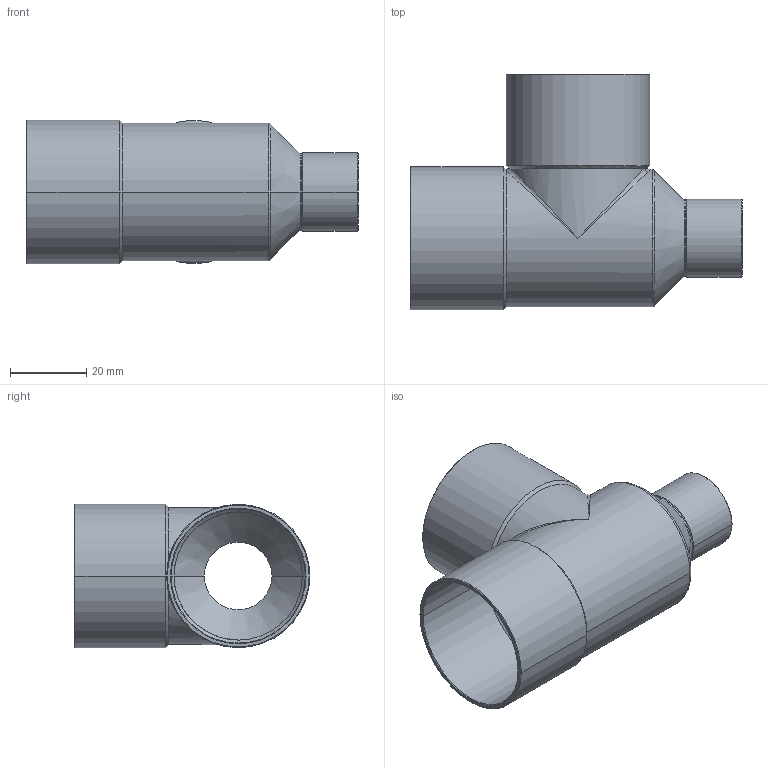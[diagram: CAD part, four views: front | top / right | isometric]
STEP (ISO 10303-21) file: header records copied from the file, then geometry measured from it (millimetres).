
FILE_DESCRIPTION((''),'2;1');
FILE_NAME('G:\Technics\CAD\Bauteile\15130\15130353518.stp','2005-11-03T13:42:59',('boden'),(''),'Autodesk Inventor 8','Autodesk Inventor 8','');
FILE_SCHEMA(('AUTOMOTIVE_DESIGN { 1 0 10303 214 1 1 1 1 }'));
Length unit declared in the file: millimetre
Products named in the file (1): 15130353518
Bounding box: 87 x 61.77 x 37.55 mm (x, y, z)
Volume: 13633.3 mm3; surface area: 23078.5 mm2
Topology: 1 solids, 1 shells, 61 faces, 147 edges, 79 vertices
Faces by surface type: cone 28, cylinder 24, bspline 4, plane 3, torus 2
Entity records: 2282 total; most frequent: CARTESIAN_POINT 878, DIRECTION 309, ORIENTED_EDGE 278, EDGE_CURVE 139, AXIS2_PLACEMENT_3D 130, VERTEX_POINT 79, CIRCLE 64, EDGE_LOOP 64
